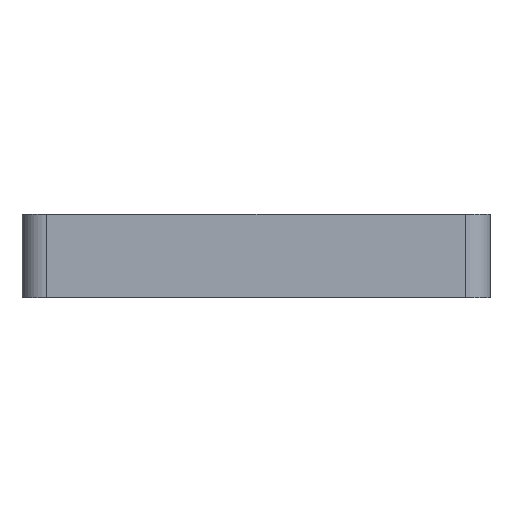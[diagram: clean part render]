
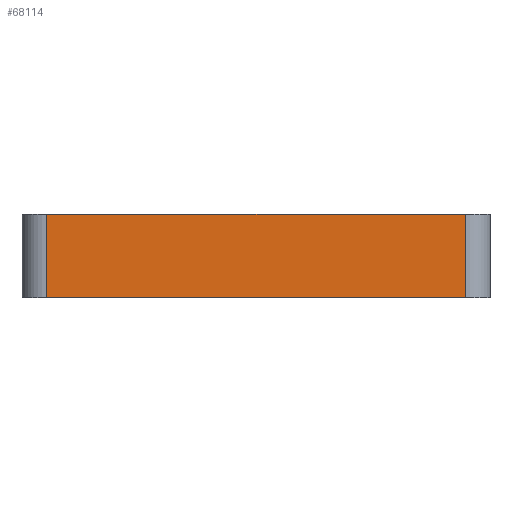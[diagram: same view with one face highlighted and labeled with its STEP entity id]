
A CAD part, front view. The second image highlights one B-rep face of the part: STEP entity #68114.
In plain terms, the highlighted planar face has unit normal (0, -1, 0).
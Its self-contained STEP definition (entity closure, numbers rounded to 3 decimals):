
#44 = PLANE('',#45);
#45 = AXIS2_PLACEMENT_3D('',#46,#47,#48);
#46 = CARTESIAN_POINT('',(0.,0.,34.));
#47 = DIRECTION('',(0.,0.,1.));
#48 = DIRECTION('',(1.,0.,0.));
#72 = CYLINDRICAL_SURFACE('',#73,10.);
#73 = AXIS2_PLACEMENT_3D('',#74,#75,#76);
#74 = CARTESIAN_POINT('',(10.,10.,0.));
#75 = DIRECTION('',(0.,0.,1.));
#76 = DIRECTION('',(-1.,-0.,0.));
#100 = PLANE('',#101);
#101 = AXIS2_PLACEMENT_3D('',#102,#103,#104);
#102 = CARTESIAN_POINT('',(0.,0.,0.));
#103 = DIRECTION('',(0.,0.,1.));
#104 = DIRECTION('',(1.,0.,0.));
#10081 = VERTEX_POINT('',#10082);
#10082 = CARTESIAN_POINT('',(10.,0.,34.));
#10104 = EDGE_CURVE('',#10081,#10105,#10107,.T.);
#10105 = VERTEX_POINT('',#10106);
#10106 = CARTESIAN_POINT('',(180.,0.,34.));
#10107 = SURFACE_CURVE('',#10108,(#10112,#10119),.PCURVE_S1.);
#10108 = LINE('',#10109,#10110);
#10109 = CARTESIAN_POINT('',(0.,0.,34.));
#10110 = VECTOR('',#10111,1.);
#10111 = DIRECTION('',(1.,0.,0.));
#10112 = PCURVE('',#44,#10113);
#10113 = DEFINITIONAL_REPRESENTATION('',(#10114),#10118);
#10114 = LINE('',#10115,#10116);
#10115 = CARTESIAN_POINT('',(0.,0.));
#10116 = VECTOR('',#10117,1.);
#10117 = DIRECTION('',(1.,0.));
#10118 = ( GEOMETRIC_REPRESENTATION_CONTEXT(2) 
PARAMETRIC_REPRESENTATION_CONTEXT() REPRESENTATION_CONTEXT('2D SPACE',''
  ) );
#10119 = PCURVE('',#10120,#10125);
#10120 = PLANE('',#10121);
#10121 = AXIS2_PLACEMENT_3D('',#10122,#10123,#10124);
#10122 = CARTESIAN_POINT('',(0.,0.,0.));
#10123 = DIRECTION('',(0.,1.,0.));
#10124 = DIRECTION('',(0.,0.,1.));
#10125 = DEFINITIONAL_REPRESENTATION('',(#10126),#10130);
#10126 = LINE('',#10127,#10128);
#10127 = CARTESIAN_POINT('',(34.,0.));
#10128 = VECTOR('',#10129,1.);
#10129 = DIRECTION('',(0.,1.));
#10130 = ( GEOMETRIC_REPRESENTATION_CONTEXT(2) 
PARAMETRIC_REPRESENTATION_CONTEXT() REPRESENTATION_CONTEXT('2D SPACE',''
  ) );
#10153 = CYLINDRICAL_SURFACE('',#10154,10.);
#10154 = AXIS2_PLACEMENT_3D('',#10155,#10156,#10157);
#10155 = CARTESIAN_POINT('',(180.,10.,0.));
#10156 = DIRECTION('',(0.,0.,1.));
#10157 = DIRECTION('',(1.,0.,-0.));
#10878 = VERTEX_POINT('',#10879);
#10879 = CARTESIAN_POINT('',(10.,0.,0.));
#10901 = EDGE_CURVE('',#10878,#10081,#10902,.T.);
#10902 = SURFACE_CURVE('',#10903,(#10907,#10914),.PCURVE_S1.);
#10903 = LINE('',#10904,#10905);
#10904 = CARTESIAN_POINT('',(10.,0.,0.));
#10905 = VECTOR('',#10906,1.);
#10906 = DIRECTION('',(0.,0.,1.));
#10907 = PCURVE('',#72,#10908);
#10908 = DEFINITIONAL_REPRESENTATION('',(#10909),#10913);
#10909 = LINE('',#10910,#10911);
#10910 = CARTESIAN_POINT('',(1.571,0.));
#10911 = VECTOR('',#10912,1.);
#10912 = DIRECTION('',(0.,1.));
#10913 = ( GEOMETRIC_REPRESENTATION_CONTEXT(2) 
PARAMETRIC_REPRESENTATION_CONTEXT() REPRESENTATION_CONTEXT('2D SPACE',''
  ) );
#10914 = PCURVE('',#10120,#10915);
#10915 = DEFINITIONAL_REPRESENTATION('',(#10916),#10920);
#10916 = LINE('',#10917,#10918);
#10917 = CARTESIAN_POINT('',(0.,10.));
#10918 = VECTOR('',#10919,1.);
#10919 = DIRECTION('',(1.,0.));
#10920 = ( GEOMETRIC_REPRESENTATION_CONTEXT(2) 
PARAMETRIC_REPRESENTATION_CONTEXT() REPRESENTATION_CONTEXT('2D SPACE',''
  ) );
#10983 = EDGE_CURVE('',#10878,#10984,#10986,.T.);
#10984 = VERTEX_POINT('',#10985);
#10985 = CARTESIAN_POINT('',(180.,0.,0.));
#10986 = SURFACE_CURVE('',#10987,(#10991,#10998),.PCURVE_S1.);
#10987 = LINE('',#10988,#10989);
#10988 = CARTESIAN_POINT('',(0.,0.,0.));
#10989 = VECTOR('',#10990,1.);
#10990 = DIRECTION('',(1.,0.,0.));
#10991 = PCURVE('',#100,#10992);
#10992 = DEFINITIONAL_REPRESENTATION('',(#10993),#10997);
#10993 = LINE('',#10994,#10995);
#10994 = CARTESIAN_POINT('',(0.,0.));
#10995 = VECTOR('',#10996,1.);
#10996 = DIRECTION('',(1.,0.));
#10997 = ( GEOMETRIC_REPRESENTATION_CONTEXT(2) 
PARAMETRIC_REPRESENTATION_CONTEXT() REPRESENTATION_CONTEXT('2D SPACE',''
  ) );
#10998 = PCURVE('',#10120,#10999);
#10999 = DEFINITIONAL_REPRESENTATION('',(#11000),#11004);
#11000 = LINE('',#11001,#11002);
#11001 = CARTESIAN_POINT('',(0.,0.));
#11002 = VECTOR('',#11003,1.);
#11003 = DIRECTION('',(0.,1.));
#11004 = ( GEOMETRIC_REPRESENTATION_CONTEXT(2) 
PARAMETRIC_REPRESENTATION_CONTEXT() REPRESENTATION_CONTEXT('2D SPACE',''
  ) );
#68114 = ADVANCED_FACE('',(#68115),#10120,.F.);
#68115 = FACE_BOUND('',#68116,.F.);
#68116 = EDGE_LOOP('',(#68117,#68118,#68119,#68120));
#68117 = ORIENTED_EDGE('',*,*,#10983,.F.);
#68118 = ORIENTED_EDGE('',*,*,#10901,.T.);
#68119 = ORIENTED_EDGE('',*,*,#10104,.T.);
#68120 = ORIENTED_EDGE('',*,*,#68121,.F.);
#68121 = EDGE_CURVE('',#10984,#10105,#68122,.T.);
#68122 = SURFACE_CURVE('',#68123,(#68127,#68134),.PCURVE_S1.);
#68123 = LINE('',#68124,#68125);
#68124 = CARTESIAN_POINT('',(180.,0.,0.));
#68125 = VECTOR('',#68126,1.);
#68126 = DIRECTION('',(0.,0.,1.));
#68127 = PCURVE('',#10120,#68128);
#68128 = DEFINITIONAL_REPRESENTATION('',(#68129),#68133);
#68129 = LINE('',#68130,#68131);
#68130 = CARTESIAN_POINT('',(0.,180.));
#68131 = VECTOR('',#68132,1.);
#68132 = DIRECTION('',(1.,0.));
#68133 = ( GEOMETRIC_REPRESENTATION_CONTEXT(2) 
PARAMETRIC_REPRESENTATION_CONTEXT() REPRESENTATION_CONTEXT('2D SPACE',''
  ) );
#68134 = PCURVE('',#10153,#68135);
#68135 = DEFINITIONAL_REPRESENTATION('',(#68136),#68140);
#68136 = LINE('',#68137,#68138);
#68137 = CARTESIAN_POINT('',(-1.571,0.));
#68138 = VECTOR('',#68139,1.);
#68139 = DIRECTION('',(-0.,1.));
#68140 = ( GEOMETRIC_REPRESENTATION_CONTEXT(2) 
PARAMETRIC_REPRESENTATION_CONTEXT() REPRESENTATION_CONTEXT('2D SPACE',''
  ) );
